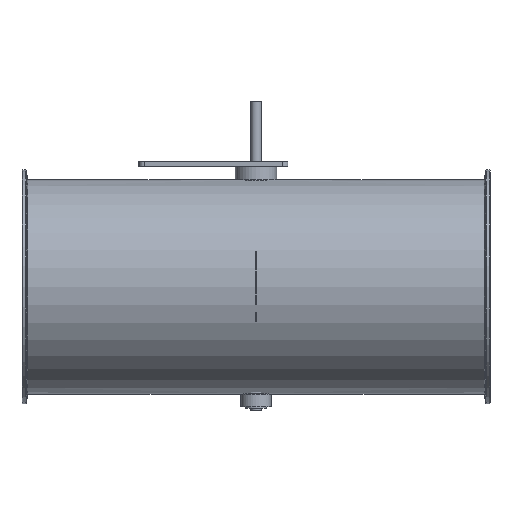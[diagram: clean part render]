
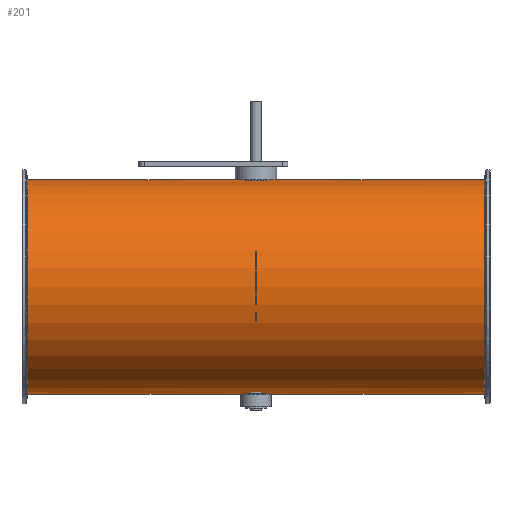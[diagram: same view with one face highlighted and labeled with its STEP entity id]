
A CAD part, top view. The second image highlights one B-rep face of the part: STEP entity #201.
In plain terms, the highlighted cylindrical face has radius 100.8 mm (diameter 201.6 mm), a full revolution.
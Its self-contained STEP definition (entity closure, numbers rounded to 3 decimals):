
#103=B_SPLINE_CURVE_WITH_KNOTS('',3,(#1405,#1406,#1407,#1408,#1409,#1410,
#1411,#1412,#1413,#1414,#1415,#1416,#1417,#1418,#1419,#1420,#1421,#1422),
 .UNSPECIFIED.,.T.,.F.,(2,2,2,2,2,2,2,2,2,2,2),(-0.125,0.,0.125,0.25,0.375,
0.5,0.625,0.75,0.875,1.,1.125),.UNSPECIFIED.);
#104=B_SPLINE_CURVE_WITH_KNOTS('',3,(#1424,#1425,#1426,#1427,#1428,#1429,
#1430,#1431,#1432,#1433,#1434,#1435,#1436,#1437,#1438,#1439,#1440,#1441),
 .UNSPECIFIED.,.T.,.F.,(2,2,2,2,2,2,2,2,2,2,2),(-0.125,0.,0.125,0.25,0.375,
0.5,0.625,0.75,0.875,1.,1.125),.UNSPECIFIED.);
#141=CYLINDRICAL_SURFACE('',#961,100.8);
#201=ADVANCED_FACE('',(#345,#346,#347,#348),#141,.T.);
#345=FACE_BOUND('',#457,.T.);
#346=FACE_BOUND('',#458,.T.);
#347=FACE_BOUND('',#459,.T.);
#348=FACE_BOUND('',#460,.T.);
#457=EDGE_LOOP('',(#625));
#458=EDGE_LOOP('',(#626));
#459=EDGE_LOOP('',(#627));
#460=EDGE_LOOP('',(#628));
#625=ORIENTED_EDGE('',*,*,#805,.T.);
#626=ORIENTED_EDGE('',*,*,#806,.F.);
#627=ORIENTED_EDGE('',*,*,#807,.F.);
#628=ORIENTED_EDGE('',*,*,#808,.T.);
#721=VERTEX_POINT('',#1404);
#722=VERTEX_POINT('',#1423);
#723=VERTEX_POINT('',#1442);
#724=VERTEX_POINT('',#1444);
#805=EDGE_CURVE('',#721,#721,#865,.T.);
#806=EDGE_CURVE('',#722,#722,#103,.T.);
#807=EDGE_CURVE('',#723,#723,#104,.T.);
#808=EDGE_CURVE('',#724,#724,#866,.T.);
#865=CIRCLE('',#959,100.8);
#866=CIRCLE('',#960,100.8);
#959=AXIS2_PLACEMENT_3D('',#1403,#1173,#1174);
#960=AXIS2_PLACEMENT_3D('',#1443,#1175,#1176);
#961=AXIS2_PLACEMENT_3D('',#1445,#1177,#1178);
#1173=DIRECTION('',(-1.,0.,0.));
#1174=DIRECTION('',(0.,0.,-1.));
#1175=DIRECTION('',(1.,0.,0.));
#1176=DIRECTION('',(0.,0.,1.));
#1177=DIRECTION('',(1.,0.,0.));
#1178=DIRECTION('',(0.,0.,-1.));
#1403=CARTESIAN_POINT('',(214.804,-51.,125.));
#1404=CARTESIAN_POINT('',(214.804,-51.,24.2));
#1405=CARTESIAN_POINT('',(2.644,49.303,115.));
#1406=CARTESIAN_POINT('',(-2.644,49.303,115.));
#1407=CARTESIAN_POINT('',(-5.228,49.422,116.086));
#1408=CARTESIAN_POINT('',(-8.915,49.681,119.774));
#1409=CARTESIAN_POINT('',(-9.999,49.8,122.384));
#1410=CARTESIAN_POINT('',(-10.001,49.8,127.605));
#1411=CARTESIAN_POINT('',(-8.941,49.683,130.2));
#1412=CARTESIAN_POINT('',(-5.208,49.421,133.936));
#1413=CARTESIAN_POINT('',(-2.615,49.303,134.999));
#1414=CARTESIAN_POINT('',(2.607,49.303,135.001));
#1415=CARTESIAN_POINT('',(5.219,49.422,133.92));
#1416=CARTESIAN_POINT('',(8.91,49.681,130.236));
#1417=CARTESIAN_POINT('',(9.997,49.8,127.652));
#1418=CARTESIAN_POINT('',(10.003,49.8,122.367));
#1419=CARTESIAN_POINT('',(8.919,49.682,119.78));
#1420=CARTESIAN_POINT('',(5.234,49.422,116.089));
#1421=CARTESIAN_POINT('',(2.644,49.303,115.));
#1422=CARTESIAN_POINT('',(-2.644,49.303,115.));
#1423=CARTESIAN_POINT('',(0.,49.303,115.));
#1424=CARTESIAN_POINT('',(-2.644,-151.303,115.));
#1425=CARTESIAN_POINT('',(2.644,-151.303,115.));
#1426=CARTESIAN_POINT('',(5.228,-151.422,116.086));
#1427=CARTESIAN_POINT('',(8.915,-151.681,119.774));
#1428=CARTESIAN_POINT('',(9.999,-151.8,122.384));
#1429=CARTESIAN_POINT('',(10.001,-151.8,127.605));
#1430=CARTESIAN_POINT('',(8.941,-151.683,130.2));
#1431=CARTESIAN_POINT('',(5.208,-151.421,133.936));
#1432=CARTESIAN_POINT('',(2.615,-151.303,134.999));
#1433=CARTESIAN_POINT('',(-2.607,-151.303,135.001));
#1434=CARTESIAN_POINT('',(-5.219,-151.422,133.92));
#1435=CARTESIAN_POINT('',(-8.91,-151.681,130.236));
#1436=CARTESIAN_POINT('',(-9.997,-151.8,127.652));
#1437=CARTESIAN_POINT('',(-10.003,-151.8,122.367));
#1438=CARTESIAN_POINT('',(-8.919,-151.682,119.78));
#1439=CARTESIAN_POINT('',(-5.234,-151.422,116.089));
#1440=CARTESIAN_POINT('',(-2.644,-151.303,115.));
#1441=CARTESIAN_POINT('',(2.644,-151.303,115.));
#1442=CARTESIAN_POINT('',(0.,-151.303,115.));
#1443=CARTESIAN_POINT('',(-214.804,-51.,125.));
#1444=CARTESIAN_POINT('',(-214.804,-51.,225.8));
#1445=CARTESIAN_POINT('',(-220.,-51.,125.));
